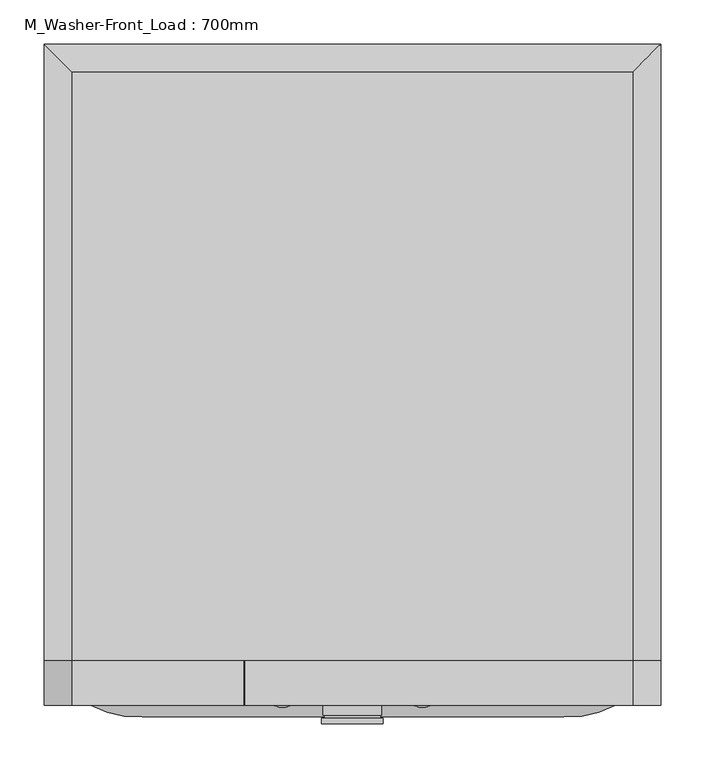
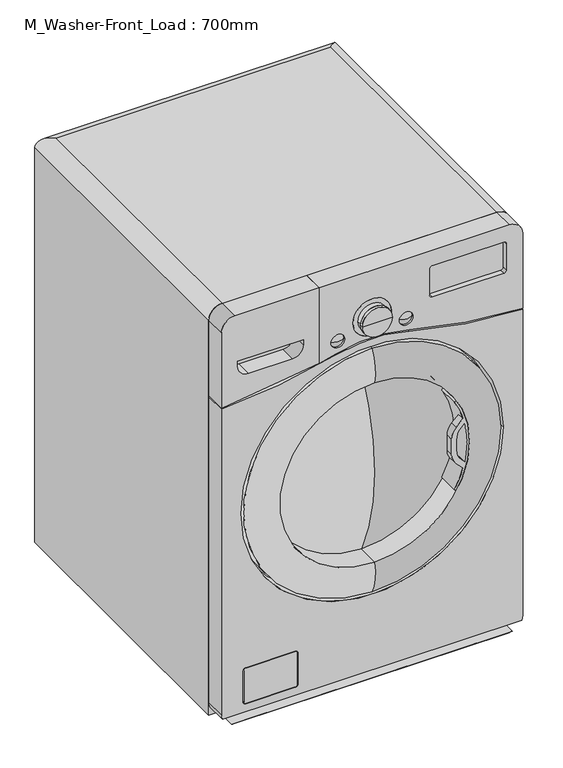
"""IFC4 building model written with IfcOpenShell, lengths in millimetres: proxy geometry, M_Washer-Front_Load : 700mm."""

from ifc_helpers import new_model, si_unit, point, frame, frame_2d, origin, place, context, project, spatial, polyline, circle_curve, ellipse_curve, trimmed, segment, composite_curve, outline, extrude, source, transform, mapped, element, save
from ifc_brep_helpers import plane_surface, cylinder_surface, revolved_surface, advanced_brep


def m_washer_front_load_700mm_9d4a3417(model_context):
    return source(origin(), model_context, "Body", "SolidModel", [
        advanced_brep(
        [(-318.25, -799.2, 1000.0), (318.25, -799.2, 1000.0), (318.25, -131.75, 1000.0), (-318.25, -131.75, 1000.0), (350.0, -100.0, 0.0), (350.0, -799.2, 0.0), (-350.0, -799.2, 0.0), (-350.0, -100.0, 0.0), (-350.0, -100.0, 968.25), (350.0, -100.0, 968.25), (-350.0, -799.2, 968.25), (350.0, -799.2, 968.25)],
        [
            (0, 1),
            (1, 2),
            (2, 3),
            (3, 0),
            (4, 5),
            (5, 6),
            (6, 7),
            (7, 4),
            (7, 8),
            (8, 9),
            (9, 4),
            (6, 10),
            (10, 8),
            (5, 11),
            (11, 1, circle_curve(frame((318.25, -799.2, 968.25), z_axis=(0.0, -1.0, 0.0), x_axis=(-1.0, 0.0, 0.0)), 31.75)),
            (0, 10, circle_curve(frame((-318.25, -799.2, 968.25), z_axis=(0.0, -1.0, 0.0), x_axis=(1.0, 0.0, 0.0)), 31.75)),
            (9, 11),
            (9, 2, ellipse_curve(frame((318.25, -131.75, 968.25), z_axis=(0.7071067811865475, -0.7071067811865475, 0.0), x_axis=(0.7071067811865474, 0.7071067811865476, 0.0)), 44.9012806, 31.75)),
            (8, 3, ellipse_curve(frame((-318.25, -131.75, 968.25), z_axis=(0.7071067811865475, 0.7071067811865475, 0.0), x_axis=(-0.7071067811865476, 0.7071067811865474, 0.0)), 44.9012806, 31.75)),
        ],
        [
            plane_surface(frame((-350.0, -100.0, 1000.0), z_axis=(0.0, 0.0, 1.0), x_axis=(-1.0, 0.0, 0.0))),
            plane_surface(frame((-350.0, -100.0, 0.0), z_axis=(0.0, 0.0, -1.0), x_axis=(1.0, 0.0, 0.0))),
            plane_surface(frame((350.0, -100.0, 1000.0), z_axis=(0.0, 1.0, 0.0), x_axis=(0.0, 0.0, -1.0))),
            plane_surface(frame((-350.0, -100.0, 1000.0), z_axis=(-1.0, 0.0, 0.0), x_axis=(0.0, 0.0, -1.0))),
            plane_surface(frame((-350.0, -799.2, 1000.0), z_axis=(0.0, -1.0, 0.0), x_axis=(0.0, 0.0, -1.0))),
            plane_surface(frame((350.0, -799.2, 1000.0), z_axis=(1.0, 0.0, 0.0), x_axis=(0.0, 0.0, -1.0))),
            cylinder_surface(frame((318.25, -799.2, 968.25), z_axis=(0.0, 1.0, 0.0), x_axis=(-1.0, 0.0, 0.0)), 31.75),
            cylinder_surface(frame((350.0, -131.75, 968.25), z_axis=(-1.0, 0.0, 0.0), x_axis=(0.0, -1.0, 0.0)), 31.75),
            cylinder_surface(frame((-318.25, -100.0, 968.25), z_axis=(0.0, -1.0, 0.0), x_axis=(1.0, 0.0, 0.0)), 31.75),
        ],
        [
            (0, [[1, 2, 3, 4]]),
            (1, [[5, 6, 7, 8]]),
            (2, [[-8, 9, 10, 11]]),
            (3, [[-7, 12, 13, -9]]),
            (4, [[-6, 14, 15, -1, 16, -12]]),
            (5, [[-5, -11, 17, -14]]),
            (6, [[18, -2, -15, -17]]),
            (7, [[-18, -10, 19, -3]]),
            (8, [[-19, -13, -16, -4]]),
        ],
    ),
        advanced_brep(
        [(318.25, -799.2, 1000.0), (350.0, -799.2, 968.25), (350.0, -799.2, 784.6273423), (85.8604518, -799.2, 824.2309769), (-85.8604518, -799.2, 824.2309769), (-121.9640352, -799.2, 815.0000454), (-121.9640352, -799.2, 1000.0), (-63.5, -799.2, 853.95), (-95.25, -799.2, 853.95), (95.25, -799.2, 853.95), (63.5, -799.2, 853.95), (-44.45, -799.2, 885.7), (44.45, -799.2, 885.7), (-85.8604518, -850.0, 824.2309769), (85.8604518, -850.0, 824.2309769), (350.0, -850.0, 784.6273423), (350.0, -850.0, 968.25), (318.25, -850.0, 1000.0), (-121.9640352, -850.0, 1000.0), (-121.9640352, -850.0, 815.0000454), (-63.5, -850.0, 853.95), (-95.25, -850.0, 853.95), (95.25, -850.0, 853.95), (63.5, -850.0, 853.95), (305.55, -850.0, 885.7), (140.45, -850.0, 885.7), (134.1, -850.0, 892.05), (134.1, -850.0, 955.55), (140.45, -850.0, 961.9), (305.55, -850.0, 961.9), (311.9, -850.0, 955.55), (311.9, -850.0, 892.05), (44.45, -850.0, 885.7), (-44.45, -850.0, 885.7), (305.55, -837.3, 885.7), (311.9, -837.3, 892.05), (311.9, -837.3, 955.55), (305.55, -837.3, 961.9), (140.45, -837.3, 961.9), (134.1, -837.3, 955.55), (134.1, -837.3, 892.05), (140.45, -837.3, 885.7)],
        [
            (0, 1, circle_curve(frame((318.25, -799.2, 968.25), z_axis=(0.0, 1.0, 0.0), x_axis=(-1.0, 0.0, 0.0)), 31.75)),
            (1, 2),
            (2, 3, circle_curve(frame((385.100978, -799.2, 1919.3876052), z_axis=(0.0, 1.0, 0.0), x_axis=(-1.0, 0.0, 0.0)), 1135.3030137)),
            (3, 4, circle_curve(frame((0.0, -799.2, 510.0), z_axis=(0.0, -1.0, 0.0), x_axis=(-1.0, 0.0, 0.0)), 325.7500945)),
            (4, 5, circle_curve(frame((-385.100978, -799.2, 1919.3876052), z_axis=(0.0, 1.0, 0.0), x_axis=(-1.0, 0.0, 0.0)), 1135.3030137)),
            (5, 6),
            (6, 0),
            (7, 8, circle_curve(frame((-79.375, -799.2, 853.95), z_axis=(0.0, -1.0, 0.0), x_axis=(-1.0, 0.0, 0.0)), 15.875)),
            (8, 7, circle_curve(frame((-79.375, -799.2, 853.95), z_axis=(0.0, -1.0, 0.0), x_axis=(-1.0, 0.0, 0.0)), 15.875)),
            (9, 10, circle_curve(frame((79.375, -799.2, 853.95), z_axis=(0.0, -1.0, 0.0), x_axis=(-1.0, 0.0, 0.0)), 15.875)),
            (10, 9, circle_curve(frame((79.375, -799.2, 853.95), z_axis=(0.0, -1.0, 0.0), x_axis=(-1.0, 0.0, 0.0)), 15.875)),
            (11, 12, circle_curve(frame((0.0, -799.2, 885.7), z_axis=(0.0, -1.0, 0.0), x_axis=(-1.0, 0.0, 0.0)), 44.45)),
            (12, 11, circle_curve(frame((0.0, -799.2, 885.7), z_axis=(0.0, -1.0, 0.0), x_axis=(-1.0, 0.0, 0.0)), 44.45)),
            (13, 14, circle_curve(frame((0.0, -850.0, 510.0), z_axis=(0.0, 1.0, 0.0), x_axis=(-1.0, 0.0, 0.0)), 325.7500945)),
            (14, 15, circle_curve(frame((385.100978, -850.0, 1919.3876052), z_axis=(0.0, -1.0, 0.0), x_axis=(-1.0, 0.0, 0.0)), 1135.3030137)),
            (15, 16),
            (16, 17, circle_curve(frame((318.25, -850.0, 968.25), z_axis=(0.0, -1.0, 0.0), x_axis=(-1.0, 0.0, 0.0)), 31.75)),
            (17, 18),
            (18, 19),
            (19, 13, circle_curve(frame((-385.100978, -850.0, 1919.3876052), z_axis=(0.0, -1.0, 0.0), x_axis=(-1.0, 0.0, 0.0)), 1135.3030137)),
            (20, 21, circle_curve(frame((-79.375, -850.0, 853.95), z_axis=(0.0, 1.0, 0.0), x_axis=(-1.0, 0.0, 0.0)), 15.875)),
            (21, 20, circle_curve(frame((-79.375, -850.0, 853.95), z_axis=(0.0, 1.0, 0.0), x_axis=(-1.0, 0.0, 0.0)), 15.875)),
            (22, 23, circle_curve(frame((79.375, -850.0, 853.95), z_axis=(0.0, 1.0, 0.0), x_axis=(-1.0, 0.0, 0.0)), 15.875)),
            (23, 22, circle_curve(frame((79.375, -850.0, 853.95), z_axis=(0.0, 1.0, 0.0), x_axis=(-1.0, 0.0, 0.0)), 15.875)),
            (24, 25),
            (25, 26, circle_curve(frame((140.45, -850.0, 892.05), z_axis=(0.0, 1.0, 0.0), x_axis=(-1.0, 0.0, 0.0)), 6.35)),
            (26, 27),
            (27, 28, circle_curve(frame((140.45, -850.0, 955.55), z_axis=(0.0, 1.0, 0.0), x_axis=(-1.0, 0.0, 0.0)), 6.35)),
            (28, 29),
            (29, 30, circle_curve(frame((305.55, -850.0, 955.55), z_axis=(0.0, 1.0, 0.0), x_axis=(-1.0, 0.0, 0.0)), 6.35)),
            (30, 31),
            (31, 24, circle_curve(frame((305.55, -850.0, 892.05), z_axis=(0.0, 1.0, 0.0), x_axis=(-1.0, 0.0, 0.0)), 6.35)),
            (32, 33, circle_curve(frame((0.0, -850.0, 885.7), z_axis=(0.0, 1.0, 0.0), x_axis=(-1.0, 0.0, 0.0)), 44.45)),
            (33, 32, circle_curve(frame((0.0, -850.0, 885.7), z_axis=(0.0, 1.0, 0.0), x_axis=(-1.0, 0.0, 0.0)), 44.45)),
            (17, 0),
            (6, 18),
            (16, 1),
            (15, 2),
            (14, 3),
            (13, 4),
            (19, 5),
            (34, 35, circle_curve(frame((305.55, -837.3, 892.05), z_axis=(0.0, -1.0, 0.0), x_axis=(-1.0, 0.0, 0.0)), 6.35)),
            (35, 36),
            (36, 37, circle_curve(frame((305.55, -837.3, 955.55), z_axis=(0.0, -1.0, 0.0), x_axis=(-1.0, 0.0, 0.0)), 6.35)),
            (37, 38),
            (38, 39, circle_curve(frame((140.45, -837.3, 955.55), z_axis=(0.0, -1.0, 0.0), x_axis=(-1.0, 0.0, 0.0)), 6.35)),
            (39, 40),
            (40, 41, circle_curve(frame((140.45, -837.3, 892.05), z_axis=(0.0, -1.0, 0.0), x_axis=(-1.0, 0.0, 0.0)), 6.35)),
            (41, 34),
            (41, 25),
            (24, 34),
            (40, 26),
            (39, 27),
            (38, 28),
            (37, 29),
            (36, 30),
            (35, 31),
            (7, 20),
            (21, 8),
            (9, 22),
            (23, 10),
            (11, 33),
            (32, 12),
        ],
        [
            plane_surface(frame((286.5, -799.2, 968.25), z_axis=(0.0, 1.0, 0.0), x_axis=(0.0, 0.0, 1.0))),
            plane_surface(frame((286.5, -850.0, 968.25), z_axis=(0.0, -1.0, 0.0), x_axis=(0.0, 0.0, -1.0))),
            plane_surface(frame((-318.25, -799.2, 1000.0), z_axis=(0.0, 0.0, 1.0), x_axis=(0.0, -1.0, 0.0))),
            cylinder_surface(frame((318.25, -850.0, 968.25), z_axis=(0.0, 1.0, 0.0), x_axis=(-1.0, 0.0, 0.0)), 31.75),
            plane_surface(frame((350.0, -799.2, 968.25), z_axis=(1.0, 0.0, 0.0), x_axis=(0.0, -1.0, 0.0))),
            cylinder_surface(frame((385.100978, -850.0, 1919.3876052), z_axis=(0.0, 1.0, 0.0), x_axis=(-1.0, 0.0, 0.0)), 1135.3030137),
            revolved_surface(polyline([(-325.7500945, -850.0, 510.0), (-325.7500945, -799.2, 510.0)]), (0.0, -850.0, 510.0), (0.0, -1.0, 0.0)),
            cylinder_surface(frame((-385.100978, -850.0, 1919.3876052), z_axis=(0.0, 1.0, 0.0), x_axis=(-1.0, 0.0, 0.0)), 1135.3030137),
            plane_surface(frame((-121.9640352, -799.2, 1000.0), z_axis=(-1.0, 0.0, 0.0), x_axis=(0.0, -1.0, 0.0))),
            plane_surface(frame((140.45, -837.3, 885.7), z_axis=(0.0, -1.0, 0.0), x_axis=(-1.0, 0.0, 0.0))),
            plane_surface(frame((305.55, -837.3, 885.7), z_axis=(0.0, 0.0, 1.0), x_axis=(0.0, -1.0, 0.0))),
            revolved_surface(polyline([(134.1, -837.3, 892.05), (134.1, -850.0, 892.05)]), (140.45, -850.0, 892.05), (0.0, 1.0, 0.0)),
            plane_surface(frame((134.1, -837.3, 892.05), z_axis=(1.0, 0.0, 0.0), x_axis=(0.0, -1.0, 0.0))),
            revolved_surface(polyline([(134.1, -837.3, 955.55), (134.1, -850.0, 955.55)]), (140.45, -850.0, 955.55), (0.0, 1.0, 0.0)),
            plane_surface(frame((140.45, -837.3, 961.9), z_axis=(0.0, 0.0, -1.0), x_axis=(0.0, -1.0, 0.0))),
            revolved_surface(polyline([(299.2, -837.3, 955.55), (299.2, -850.0, 955.55)]), (305.55, -850.0, 955.55), (0.0, 1.0, 0.0)),
            plane_surface(frame((311.9, -837.3, 955.55), z_axis=(-1.0, 0.0, 0.0), x_axis=(0.0, -1.0, 0.0))),
            revolved_surface(polyline([(299.2, -837.3, 892.05), (299.2, -850.0, 892.05)]), (305.55, -850.0, 892.05), (0.0, 1.0, 0.0)),
            revolved_surface(polyline([(-95.25, -850.0, 853.95), (-95.25, -799.2, 853.95)]), (-79.375, -850.0, 853.95), (0.0, -1.0, 0.0)),
            revolved_surface(polyline([(63.5, -850.0, 853.95), (63.5, -799.2, 853.95)]), (79.375, -850.0, 853.95), (0.0, -1.0, 0.0)),
            revolved_surface(polyline([(-44.45, -799.2, 885.7), (-44.45, -850.0, 885.7)]), (0.0, -850.0, 885.7), (0.0, 1.0, 0.0)),
        ],
        [
            (0, [[1, 2, 3, 4, 5, 6, 7], [8, 9], [10, 11], [12, 13]]),
            (1, [[14, 15, 16, 17, 18, 19, 20], [21, 22], [23, 24], [25, 26, 27, 28, 29, 30, 31, 32], [33, 34]]),
            (2, [[35, -7, 36, -18]]),
            (3, [[-1, -35, -17, 37]]),
            (4, [[-2, -37, -16, 38]]),
            (5, [[-3, -38, -15, 39]]),
            (6, [[-4, -39, -14, 40]]),
            (7, [[-40, -20, 41, -5]]),
            (8, [[-6, -41, -19, -36]]),
            (9, [[42, 43, 44, 45, 46, 47, 48, 49]]),
            (10, [[-49, 50, -25, 51]]),
            (11, [[-48, 52, -26, -50]]),
            (12, [[-47, 53, -27, -52]]),
            (13, [[-46, 54, -28, -53]]),
            (14, [[-45, 55, -29, -54]]),
            (15, [[-44, 56, -30, -55]]),
            (16, [[-43, 57, -31, -56]]),
            (17, [[-42, -51, -32, -57]]),
            (18, [[-8, 58, -22, 59]]),
            (18, [[-9, -59, -21, -58]]),
            (19, [[-10, 60, -24, 61]]),
            (19, [[-11, -61, -23, -60]]),
            (20, [[62, -33, 63, -12]]),
            (20, [[-62, -13, -63, -34]]),
        ],
    ),
        advanced_brep(
        [(-350.0, -799.2, 784.6273423), (-350.0, -799.2, 968.25), (-318.25, -799.2, 1000.0), (-123.5515352, -799.2, 1000.0), (-123.5515352, -799.2, 814.623005), (-318.25, -850.0, 1000.0), (-350.0, -850.0, 968.25), (-350.0, -850.0, 784.6273423), (-123.5515352, -850.0, 814.623005), (-123.5515352, -850.0, 1000.0), (-159.5, -850.0, 885.7), (-159.5, -850.0, 873.0), (-184.9, -850.0, 847.6), (-286.5, -850.0, 847.6), (-311.9, -850.0, 873.0), (-311.9, -850.0, 885.7), (-159.5, -811.9, 885.7), (-311.9, -811.9, 885.7), (-311.9, -811.9, 873.0), (-286.5, -811.9, 847.6), (-184.9, -811.9, 847.6), (-159.5, -811.9, 873.0)],
        [
            (0, 1),
            (1, 2, circle_curve(frame((-318.25, -799.2, 968.25), z_axis=(0.0, 1.0, 0.0), x_axis=(-1.0, 0.0, 0.0)), 31.75)),
            (2, 3),
            (3, 4),
            (4, 0, circle_curve(frame((-385.100978, -799.2, 1919.3876052), z_axis=(0.0, 1.0, 0.0), x_axis=(-1.0, 0.0, 0.0)), 1135.3030137)),
            (5, 6, circle_curve(frame((-318.25, -850.0, 968.25), z_axis=(0.0, -1.0, 0.0), x_axis=(-1.0, 0.0, 0.0)), 31.75)),
            (6, 7),
            (7, 8, circle_curve(frame((-385.100978, -850.0, 1919.3876052), z_axis=(0.0, -1.0, 0.0), x_axis=(-1.0, 0.0, 0.0)), 1135.3030137)),
            (8, 9),
            (9, 5),
            (10, 11),
            (11, 12, circle_curve(frame((-184.9, -850.0, 873.0), z_axis=(0.0, 1.0, 0.0), x_axis=(-1.0, 0.0, 0.0)), 25.4)),
            (12, 13),
            (13, 14, circle_curve(frame((-286.5, -850.0, 873.0), z_axis=(0.0, 1.0, 0.0), x_axis=(-1.0, 0.0, 0.0)), 25.4)),
            (14, 15),
            (15, 10),
            (2, 5),
            (9, 3),
            (7, 0),
            (4, 8),
            (6, 1),
            (16, 17),
            (17, 18),
            (18, 19, circle_curve(frame((-286.5, -811.9, 873.0), z_axis=(0.0, -1.0, 0.0), x_axis=(-1.0, 0.0, 0.0)), 25.4)),
            (19, 20),
            (20, 21, circle_curve(frame((-184.9, -811.9, 873.0), z_axis=(0.0, -1.0, 0.0), x_axis=(-1.0, 0.0, 0.0)), 25.4)),
            (21, 16),
            (21, 11),
            (10, 16),
            (20, 12),
            (19, 13),
            (18, 14),
            (17, 15),
        ],
        [
            plane_surface(frame((286.5, -799.2, 968.25), z_axis=(0.0, 1.0, 0.0), x_axis=(0.0, 0.0, 1.0))),
            plane_surface(frame((286.5, -850.0, 968.25), z_axis=(0.0, -1.0, 0.0), x_axis=(0.0, 0.0, -1.0))),
            plane_surface(frame((-318.25, -799.2, 1000.0), z_axis=(0.0, 0.0, 1.0), x_axis=(0.0, -1.0, 0.0))),
            cylinder_surface(frame((-385.100978, -850.0, 1919.3876052), z_axis=(0.0, 1.0, 0.0), x_axis=(-1.0, 0.0, 0.0)), 1135.3030137),
            plane_surface(frame((-350.0, -799.2, 784.6273423), z_axis=(-1.0, 0.0, 0.0), x_axis=(0.0, -1.0, 0.0))),
            cylinder_surface(frame((-318.25, -850.0, 968.25), z_axis=(0.0, 1.0, 0.0), x_axis=(-1.0, 0.0, 0.0)), 31.75),
            plane_surface(frame((-159.5, -811.9, 885.7), z_axis=(0.0, -1.0, 0.0), x_axis=(0.0, 0.0, -1.0))),
            plane_surface(frame((-159.5, -811.9, 885.7), z_axis=(-1.0, 0.0, 0.0), x_axis=(0.0, -1.0, 0.0))),
            revolved_surface(polyline([(-210.3, -811.9, 873.0), (-210.3, -850.0, 873.0)]), (-184.9, -850.0, 873.0), (0.0, 1.0, 0.0)),
            plane_surface(frame((-184.9, -811.9, 847.6), z_axis=(0.0, 0.0, 1.0), x_axis=(0.0, -1.0, 0.0))),
            revolved_surface(polyline([(-311.9, -811.9, 873.0), (-311.9, -850.0, 873.0)]), (-286.5, -850.0, 873.0), (0.0, 1.0, 0.0)),
            plane_surface(frame((-311.9, -811.9, 873.0), z_axis=(1.0, 0.0, 0.0), x_axis=(0.0, -1.0, 0.0))),
            plane_surface(frame((-311.9, -811.9, 885.7), z_axis=(0.0, 0.0, -1.0), x_axis=(0.0, -1.0, 0.0))),
            plane_surface(frame((-123.5515352, -799.2, 814.2519438), z_axis=(1.0, 0.0, 0.0), x_axis=(0.0, -1.0, 0.0))),
        ],
        [
            (0, [[1, 2, 3, 4, 5]]),
            (1, [[6, 7, 8, 9, 10], [11, 12, 13, 14, 15, 16]]),
            (2, [[17, -10, 18, -3]]),
            (3, [[19, -5, 20, -8]]),
            (4, [[-1, -19, -7, 21]]),
            (5, [[-2, -21, -6, -17]]),
            (6, [[22, 23, 24, 25, 26, 27]]),
            (7, [[-27, 28, -11, 29]]),
            (8, [[-26, 30, -12, -28]]),
            (9, [[-25, 31, -13, -30]]),
            (10, [[-24, 32, -14, -31]]),
            (11, [[-23, 33, -15, -32]]),
            (12, [[-22, -29, -16, -33]]),
            (13, [[-4, -18, -9, -20]]),
        ],
    ),
        advanced_brep(
        [(-350.0, -799.2, 781.4508315), (-85.0235936, -799.2, 821.1682541), (85.0235936, -799.2, 821.1682541), (350.0, -799.2, 781.4508315), (350.0, -799.2, 31.75), (347.7457624, -799.2, 20.0), (-347.7457624, -799.2, 20.0), (-350.0, -799.2, 31.75), (304.8, -799.2, 510.0), (-304.8, -799.2, 510.0), (-350.0, -850.0, 781.4508315), (-350.0, -850.0, 31.75), (-347.7457624, -850.0, 20.0), (347.7457624, -850.0, 20.0), (350.0, -850.0, 31.75), (350.0, -850.0, 781.4508315), (85.0235936, -850.0, 821.1682541), (-85.0235936, -850.0, 821.1682541), (304.8, -850.0, 510.0), (-304.8, -850.0, 510.0), (-172.2, -850.0, 121.6), (-172.2, -850.0, 45.4), (-178.55, -850.0, 39.05), (-292.85, -850.0, 39.05), (-299.2, -850.0, 45.4), (-299.2, -850.0, 121.6), (-292.85, -850.0, 127.95), (-178.55, -850.0, 127.95), (-173.7875, -850.0, 45.4), (-173.7875, -850.0, 121.6), (-178.55, -850.0, 126.3625), (-292.85, -850.0, 126.3625), (-297.6125, -850.0, 121.6), (-297.6125, -850.0, 45.4), (-292.85, -850.0, 40.6375), (-178.55, -850.0, 40.6375), (-173.7875, -836.50625, 45.4), (-173.7875, -836.50625, 121.6), (-172.2, -836.50625, 121.6), (-172.2, -836.50625, 45.4), (-292.85, -836.50625, 40.6375), (-178.55, -836.50625, 40.6375), (-178.55, -836.50625, 39.05), (-292.85, -836.50625, 39.05), (-297.6125, -836.50625, 121.6), (-297.6125, -836.50625, 45.4), (-299.2, -836.50625, 45.4), (-299.2, -836.50625, 121.6), (-178.55, -836.50625, 126.3625), (-292.85, -836.50625, 126.3625), (-292.85, -836.50625, 127.95), (-178.55, -836.50625, 127.95)],
        [
            (0, 1, circle_curve(frame((-385.100978, -799.2, 1919.3876052), z_axis=(0.0, -1.0, 0.0), x_axis=(-1.0, 0.0, 0.0)), 1138.4780102)),
            (1, 2, circle_curve(frame((0.0, -799.2, 510.0), z_axis=(0.0, 1.0, 0.0), x_axis=(-1.0, 0.0, 0.0)), 322.575098)),
            (2, 3, circle_curve(frame((385.100978, -799.2, 1919.3876052), z_axis=(0.0, -1.0, 0.0), x_axis=(-1.0, 0.0, 0.0)), 1138.4780102)),
            (3, 4),
            (4, 5, circle_curve(frame((318.25, -799.2, 31.75), z_axis=(0.0, 1.0, 0.0), x_axis=(-1.0, 0.0, 0.0)), 31.75)),
            (5, 6),
            (6, 7, circle_curve(frame((-318.25, -799.2, 31.75), z_axis=(0.0, 1.0, 0.0), x_axis=(-1.0, 0.0, 0.0)), 31.75)),
            (7, 0),
            (8, 9, circle_curve(frame((0.0, -799.2, 510.0), z_axis=(0.0, -1.0, 0.0), x_axis=(-1.0, 0.0, 0.0)), 304.8)),
            (9, 8, circle_curve(frame((0.0, -799.2, 510.0), z_axis=(0.0, -1.0, 0.0), x_axis=(-1.0, 0.0, 0.0)), 304.8)),
            (10, 11),
            (11, 12, circle_curve(frame((-318.25, -850.0, 31.75), z_axis=(0.0, -1.0, 0.0), x_axis=(-1.0, 0.0, 0.0)), 31.75)),
            (12, 13),
            (13, 14, circle_curve(frame((318.25, -850.0, 31.75), z_axis=(0.0, -1.0, 0.0), x_axis=(-1.0, 0.0, 0.0)), 31.75)),
            (14, 15),
            (15, 16, circle_curve(frame((385.100978, -850.0, 1919.3876052), z_axis=(0.0, 1.0, 0.0), x_axis=(-1.0, 0.0, 0.0)), 1138.4780102)),
            (16, 17, circle_curve(frame((0.0, -850.0, 510.0), z_axis=(0.0, -1.0, 0.0), x_axis=(-1.0, 0.0, 0.0)), 322.575098)),
            (17, 10, circle_curve(frame((-385.100978, -850.0, 1919.3876052), z_axis=(0.0, 1.0, 0.0), x_axis=(-1.0, 0.0, 0.0)), 1138.4780102)),
            (18, 19, circle_curve(frame((0.0, -850.0, 510.0), z_axis=(0.0, 1.0, 0.0), x_axis=(-1.0, 0.0, 0.0)), 304.8)),
            (19, 18, circle_curve(frame((0.0, -850.0, 510.0), z_axis=(0.0, 1.0, 0.0), x_axis=(-1.0, 0.0, 0.0)), 304.8)),
            (20, 21),
            (21, 22, circle_curve(frame((-178.55, -850.0, 45.4), z_axis=(0.0, 1.0, 0.0), x_axis=(1.0, 0.0, 0.0)), 6.35)),
            (22, 23),
            (23, 24, circle_curve(frame((-292.85, -850.0, 45.4), z_axis=(0.0, 1.0, 0.0), x_axis=(0.0, 0.0, -1.0)), 6.35)),
            (24, 25),
            (25, 26, circle_curve(frame((-292.85, -850.0, 121.6), z_axis=(0.0, 1.0, 0.0), x_axis=(-1.0, 0.0, 0.0)), 6.35)),
            (26, 27),
            (27, 20, circle_curve(frame((-178.55, -850.0, 121.6), z_axis=(0.0, 1.0, 0.0), x_axis=(0.0, 0.0, 1.0)), 6.35)),
            (28, 29),
            (29, 30, circle_curve(frame((-178.55, -850.0, 121.6), z_axis=(0.0, -1.0, 0.0), x_axis=(0.0, 0.0, 1.0)), 4.7625)),
            (30, 31),
            (31, 32, circle_curve(frame((-292.85, -850.0, 121.6), z_axis=(0.0, -1.0, 0.0), x_axis=(-1.0, 0.0, 0.0)), 4.7625)),
            (32, 33),
            (33, 34, circle_curve(frame((-292.85, -850.0, 45.4), z_axis=(0.0, -1.0, 0.0), x_axis=(0.0, 0.0, -1.0)), 4.7625)),
            (34, 35),
            (35, 28, circle_curve(frame((-178.55, -850.0, 45.4), z_axis=(0.0, -1.0, 0.0), x_axis=(1.0, 0.0, 0.0)), 4.7625)),
            (3, 15),
            (14, 4),
            (7, 11),
            (10, 0),
            (17, 1),
            (16, 2),
            (13, 5),
            (6, 12),
            (8, 18),
            (19, 9),
            (28, 36),
            (36, 37),
            (37, 29),
            (38, 39),
            (39, 21),
            (20, 38),
            (34, 40),
            (40, 41),
            (41, 35),
            (42, 43),
            (43, 23),
            (22, 42),
            (32, 44),
            (44, 45),
            (45, 33),
            (46, 47),
            (47, 25),
            (24, 46),
            (30, 48),
            (48, 49),
            (49, 31),
            (50, 51),
            (51, 27),
            (26, 50),
            (37, 48, circle_curve(frame((-178.55, -836.50625, 121.6), z_axis=(0.0, -1.0, 0.0), x_axis=(0.0, 0.0, 1.0)), 4.7625)),
            (51, 38, circle_curve(frame((-178.55, -836.50625, 121.6), z_axis=(0.0, 1.0, 0.0), x_axis=(0.0, 0.0, 1.0)), 6.35)),
            (41, 36, circle_curve(frame((-178.55, -836.50625, 45.4), z_axis=(0.0, -1.0, 0.0), x_axis=(1.0, 0.0, 0.0)), 4.7625)),
            (39, 42, circle_curve(frame((-178.55, -836.50625, 45.4), z_axis=(0.0, 1.0, 0.0), x_axis=(1.0, 0.0, 0.0)), 6.35)),
            (45, 40, circle_curve(frame((-292.85, -836.50625, 45.4), z_axis=(0.0, -1.0, 0.0), x_axis=(0.0, 0.0, -1.0)), 4.7625)),
            (43, 46, circle_curve(frame((-292.85, -836.50625, 45.4), z_axis=(0.0, 1.0, 0.0), x_axis=(0.0, 0.0, -1.0)), 6.35)),
            (50, 47, circle_curve(frame((-292.85, -836.50625, 121.6), z_axis=(0.0, -1.0, 0.0), x_axis=(-1.0, 0.0, 0.0)), 6.35)),
            (44, 49, circle_curve(frame((-292.85, -836.50625, 121.6), z_axis=(0.0, 1.0, 0.0), x_axis=(-1.0, 0.0, 0.0)), 4.7625)),
        ],
        [
            plane_surface(frame((286.5, -799.2, 968.25), z_axis=(0.0, 1.0, 0.0), x_axis=(0.0, 0.0, 1.0))),
            plane_surface(frame((286.5, -850.0, 968.25), z_axis=(0.0, -1.0, 0.0), x_axis=(0.0, 0.0, -1.0))),
            plane_surface(frame((350.0, -799.2, 781.4508315), z_axis=(1.0, 0.0, 0.0), x_axis=(0.0, -1.0, 0.0))),
            plane_surface(frame((-350.0, -799.2, 31.75), z_axis=(-1.0, 0.0, 0.0), x_axis=(0.0, -1.0, 0.0))),
            revolved_surface(polyline([(-1523.5789882, -850.0, 1919.3876052), (-1523.5789882, -799.2, 1919.3876052)]), (-385.100978, -850.0, 1919.3876052), (0.0, -1.0, 0.0)),
            cylinder_surface(frame((0.0, -850.0, 510.0), z_axis=(0.0, 1.0, 0.0), x_axis=(-1.0, 0.0, 0.0)), 322.575098),
            revolved_surface(polyline([(-753.3770322, -850.0, 1919.3876052), (-753.3770322, -799.2, 1919.3876052)]), (385.100978, -850.0, 1919.3876052), (0.0, -1.0, 0.0)),
            cylinder_surface(frame((318.25, -850.0, 31.75), z_axis=(0.0, 1.0, 0.0), x_axis=(-1.0, 0.0, 0.0)), 31.75),
            cylinder_surface(frame((-318.25, -850.0, 31.75), z_axis=(0.0, 1.0, 0.0), x_axis=(-1.0, 0.0, 0.0)), 31.75),
            revolved_surface(polyline([(-304.8, -850.0, 510.0), (-304.8, -799.2, 510.0)]), (0.0, -850.0, 510.0), (0.0, -1.0, 0.0)),
            plane_surface(frame((-173.7875, -836.50625, 121.6), z_axis=(1.0, 0.0, 0.0), x_axis=(0.0, 0.0, -1.0))),
            plane_surface(frame((-172.2, -850.0, 121.6), z_axis=(-1.0, 0.0, 0.0), x_axis=(0.0, 0.0, -1.0))),
            plane_surface(frame((-178.55, -836.50625, 40.6375), z_axis=(0.0, 0.0, -1.0), x_axis=(-1.0, 0.0, 0.0))),
            plane_surface(frame((-178.55, -850.0, 39.05), z_axis=(0.0, 0.0, 1.0), x_axis=(-1.0, 0.0, 0.0))),
            plane_surface(frame((-297.6125, -836.50625, 45.4), z_axis=(-1.0, 0.0, 0.0), x_axis=(0.0, 0.0, 1.0))),
            plane_surface(frame((-299.2, -850.0, 45.4), z_axis=(1.0, 0.0, 0.0), x_axis=(0.0, 0.0, 1.0))),
            plane_surface(frame((-292.85, -836.50625, 126.3625), z_axis=(0.0, 0.0, 1.0), x_axis=(1.0, 0.0, 0.0))),
            plane_surface(frame((-292.85, -850.0, 127.95), z_axis=(0.0, 0.0, -1.0), x_axis=(1.0, 0.0, 0.0))),
            cylinder_surface(frame((-178.55, -850.0, 121.6), z_axis=(0.0, 1.0, 0.0), x_axis=(0.0, 0.0, 1.0)), 4.7625),
            revolved_surface(polyline([(-178.55, -836.50625, 127.94999999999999), (-178.55, -850.0, 127.94999999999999)]), (-178.55, -850.0, 121.6), (0.0, 1.0, 0.0)),
            cylinder_surface(frame((-178.55, -850.0, 45.4), z_axis=(0.0, 1.0, 0.0), x_axis=(1.0, 0.0, 0.0)), 4.7625),
            revolved_surface(polyline([(-172.20000000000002, -836.50625, 45.4), (-172.20000000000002, -850.0, 45.4)]), (-178.55, -850.0, 45.4), (0.0, 1.0, 0.0)),
            cylinder_surface(frame((-292.85, -850.0, 45.4), z_axis=(0.0, 1.0, 0.0), x_axis=(0.0, 0.0, -1.0)), 4.7625),
            revolved_surface(polyline([(-292.85, -836.50625, 39.05), (-292.85, -850.0, 39.05)]), (-292.85, -850.0, 45.4), (0.0, 1.0, 0.0)),
            plane_surface(frame((-292.85, -836.50625, 121.6), z_axis=(0.0, -1.0, 0.0), x_axis=(-1.0, 0.0, 0.0))),
            cylinder_surface(frame((-292.85, -850.0, 121.6), z_axis=(0.0, 1.0, 0.0), x_axis=(-1.0, 0.0, 0.0)), 4.7625),
            revolved_surface(polyline([(-299.20000000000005, -836.50625, 121.6), (-299.20000000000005, -850.0, 121.6)]), (-292.85, -850.0, 121.6), (0.0, 1.0, 0.0)),
            plane_surface(frame((350.0, -799.2, 20.0), z_axis=(0.0, 0.0, -1.0), x_axis=(-1.0, 0.0, 0.0))),
        ],
        [
            (0, [[1, 2, 3, 4, 5, 6, 7, 8], [9, 10]]),
            (1, [[11, 12, 13, 14, 15, 16, 17, 18], [19, 20], [21, 22, 23, 24, 25, 26, 27, 28]]),
            (1, [[29, 30, 31, 32, 33, 34, 35, 36]]),
            (2, [[-4, 37, -15, 38]]),
            (3, [[-8, 39, -11, 40]]),
            (4, [[-1, -40, -18, 41]]),
            (5, [[-2, -41, -17, 42]]),
            (6, [[-3, -42, -16, -37]]),
            (7, [[-38, -14, 43, -5]]),
            (8, [[-39, -7, 44, -12]]),
            (9, [[-9, 45, -20, 46]]),
            (9, [[-10, -46, -19, -45]]),
            (10, [[47, 48, 49, -29]]),
            (11, [[50, 51, -21, 52]]),
            (12, [[53, 54, 55, -35]]),
            (13, [[56, 57, -23, 58]]),
            (14, [[59, 60, 61, -33]]),
            (15, [[62, 63, -25, 64]]),
            (16, [[65, 66, 67, -31]]),
            (17, [[68, 69, -27, 70]]),
            (18, [[-49, 71, -65, -30]]),
            (19, [[-52, -28, -69, 72]]),
            (20, [[-47, -36, -55, 73]]),
            (21, [[-51, 74, -58, -22]]),
            (22, [[-53, -34, -61, 75]]),
            (23, [[-57, 76, -64, -24]]),
            (24, [[-50, -72, -68, 77, -62, -76, -56, -74], [-48, -73, -54, -75, -60, 78, -66, -71]]),
            (25, [[-59, -32, -67, -78]]),
            (26, [[-63, -77, -70, -26]]),
            (27, [[-6, -43, -13, -44]]),
        ],
    ),
        advanced_brep(
        [(318.25, -799.2, 0.0), (-318.25, -799.2, 0.0), (-325.9585991, -799.2, 0.95), (325.9585991, -799.2, 0.95), (-318.25, -850.0, 0.0), (318.25, -850.0, 0.0), (325.9585991, -850.0, 0.95), (-325.9585991, -850.0, 0.95)],
        [
            (0, 1),
            (1, 2, circle_curve(frame((-318.25, -799.2, 31.75), z_axis=(0.0, 1.0, 0.0), x_axis=(-1.0, 0.0, 0.0)), 31.75)),
            (2, 3),
            (3, 0, circle_curve(frame((318.25, -799.2, 31.75), z_axis=(0.0, 1.0, 0.0), x_axis=(-1.0, 0.0, 0.0)), 31.75)),
            (4, 5),
            (5, 6, circle_curve(frame((318.25, -850.0, 31.75), z_axis=(0.0, -1.0, 0.0), x_axis=(-1.0, 0.0, 0.0)), 31.75)),
            (6, 7),
            (7, 4, circle_curve(frame((-318.25, -850.0, 31.75), z_axis=(0.0, -1.0, 0.0), x_axis=(-1.0, 0.0, 0.0)), 31.75)),
            (0, 5),
            (4, 1),
            (3, 6),
            (7, 2),
        ],
        [
            plane_surface(frame((286.5, -799.2, 968.25), z_axis=(0.0, 1.0, 0.0), x_axis=(0.0, 0.0, 1.0))),
            plane_surface(frame((286.5, -850.0, 968.25), z_axis=(0.0, -1.0, 0.0), x_axis=(0.0, 0.0, -1.0))),
            plane_surface(frame((318.25, -799.2, 0.0), z_axis=(0.0, 0.0, -1.0), x_axis=(0.0, -1.0, 0.0))),
            cylinder_surface(frame((318.25, -850.0, 31.75), z_axis=(0.0, 1.0, 0.0), x_axis=(-1.0, 0.0, 0.0)), 31.75),
            cylinder_surface(frame((-318.25, -850.0, 31.75), z_axis=(0.0, 1.0, 0.0), x_axis=(-1.0, 0.0, 0.0)), 31.75),
            plane_surface(frame((350.0, -850.0, 0.95), z_axis=(0.0, 0.0, 1.0), x_axis=(-1.0, 0.0, 0.0))),
        ],
        [
            (0, [[1, 2, 3, 4]]),
            (1, [[5, 6, 7, 8]]),
            (2, [[-1, 9, -5, 10]]),
            (3, [[-9, -4, 11, -6]]),
            (4, [[-10, -8, 12, -2]]),
            (5, [[-3, -12, -7, -11]]),
        ],
    ),
        advanced_brep(
        [(0.0, -799.2, 291.091246), (0.0, -799.2, 728.908754), (0.0, -799.2, 510.0), (0.0, -806.5406335, 291.091246), (0.0, -806.5406335, 728.908754), (0.0, -860.1804538, 510.0)],
        [
            (0, 1, circle_curve(frame((0.0, -799.2, 510.0), z_axis=(0.0, 1.0, 0.0), x_axis=(0.0, 0.0, 1.0)), 218.908754)),
            (1, 2),
            (2, 0),
            (1, 0, circle_curve(frame((0.0, -799.2, 510.0), z_axis=(0.0, 1.0, 0.0), x_axis=(0.0, 0.0, 1.0)), 218.908754)),
            (3, 4, circle_curve(frame((0.0, -806.5406335, 510.0), z_axis=(0.0, 1.0, 0.0), x_axis=(0.0, 0.0, 1.0)), 218.908754)),
            (4, 1),
            (0, 3),
            (4, 3, circle_curve(frame((0.0, -806.5406335, 510.0), z_axis=(0.0, 1.0, 0.0), x_axis=(0.0, 0.0, 1.0)), 218.908754)),
            (5, 4, circle_curve(frame((0.0, -386.6677479, 510.0), z_axis=(-1.0, 0.0, 0.0), x_axis=(0.0, 1.0, 0.0)), 473.5127059)),
            (3, 5, circle_curve(frame((0.0, -386.6677479, 510.0), z_axis=(-1.0, 0.0, 0.0), x_axis=(0.0, 1.0, 0.0)), 473.5127059)),
        ],
        [
            plane_surface(frame((0.0, -799.2, 510.0), z_axis=(0.0, 1.0, 0.0), x_axis=(0.0, 0.0, 1.0))),
            cylinder_surface(frame((0.0, 2097.4086068, 510.0), z_axis=(0.0, -1.0, 0.0), x_axis=(0.0, 0.0, 1.0)), 218.908754),
            revolved_surface(trimmed(ellipse_curve(frame((0.0, -386.6677479, 510.0), z_axis=(1.0, 0.0, 0.0), x_axis=(0.0, 1.0, 0.0)), 473.5127059, 473.5127059), [point((0.0, -806.5406335, 728.908754))], [point((0.0, -860.1804538, 510.0))], True, "CARTESIAN"), (0.0, 2097.4086068, 510.0), (0.0, -1.0, 0.0)),
        ],
        [
            (0, [[1, 2, 3]]),
            (0, [[4, -3, -2]]),
            (1, [[5, 6, -1, 7]]),
            (1, [[8, -7, -4, -6]]),
            (2, [[9, -5, 10]]),
            (2, [[-10, -8, -9]]),
        ],
    ),
        advanced_brep(
        [(0.0, -860.1804538, 289.7111611), (0.0, -860.1804538, 730.2888389), (0.0, -850.0, 808.45), (0.0, -850.0, 211.55), (0.0, -799.2, 289.7111611), (0.0, -799.2, 730.2888389), (0.0, -799.2, 211.55), (0.0, -799.2, 808.45)],
        [
            (0, 1, circle_curve(frame((0.0, -860.1804538, 510.0), z_axis=(0.0, 1.0, 0.0), x_axis=(0.0, 0.0, 1.0)), 220.2888389)),
            (1, 2, circle_curve(frame((0.0, -753.6052479, 756.1510496), z_axis=(-1.0, 0.0, 0.0), x_axis=(0.0, 1.0, 0.0)), 109.6682655)),
            (2, 3, circle_curve(frame((0.0, -850.0, 510.0), z_axis=(0.0, -1.0, 0.0), x_axis=(0.0, 0.0, 1.0)), 298.45)),
            (3, 0, circle_curve(frame((0.0, -753.6052479, 263.8489504), z_axis=(-1.0, 0.0, 0.0), x_axis=(0.0, 1.0, 0.0)), 109.6682655)),
            (1, 0, circle_curve(frame((0.0, -860.1804538, 510.0), z_axis=(0.0, 1.0, 0.0), x_axis=(0.0, 0.0, 1.0)), 220.2888389)),
            (3, 2, circle_curve(frame((0.0, -850.0, 510.0), z_axis=(0.0, -1.0, 0.0), x_axis=(0.0, 0.0, 1.0)), 298.45)),
            (4, 5, circle_curve(frame((0.0, -799.2, 510.0), z_axis=(0.0, 1.0, 0.0), x_axis=(0.0, 0.0, 1.0)), 220.2888389)),
            (5, 1),
            (0, 4),
            (5, 4, circle_curve(frame((0.0, -799.2, 510.0), z_axis=(0.0, 1.0, 0.0), x_axis=(0.0, 0.0, 1.0)), 220.2888389)),
            (6, 7, circle_curve(frame((0.0, -799.2, 510.0), z_axis=(0.0, 1.0, 0.0), x_axis=(0.0, 0.0, 1.0)), 298.45)),
            (7, 5),
            (4, 6),
            (7, 6, circle_curve(frame((0.0, -799.2, 510.0), z_axis=(0.0, 1.0, 0.0), x_axis=(0.0, 0.0, 1.0)), 298.45)),
            (2, 7),
            (6, 3),
        ],
        [
            revolved_surface(trimmed(ellipse_curve(frame((0.0, -753.6052479, 756.1510496), z_axis=(1.0, 0.0, 0.0), x_axis=(0.0, 1.0, 0.0)), 109.6682655, 109.6682655), [point((0.0, -850.0, 808.45))], [point((0.0, -860.1804538, 730.2888389))], True, "CARTESIAN"), (0.0, 2097.4086068, 510.0), (0.0, -1.0, 0.0)),
            revolved_surface(polyline([(0.0, -860.1804538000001, 730.2888389), (0.0, -799.2000000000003, 730.2888389)]), (0.0, 2097.4086068, 510.0), (0.0, -1.0, 0.0)),
            plane_surface(frame((0.0, -799.2, 510.0), z_axis=(0.0, 1.0, 0.0), x_axis=(0.0, 0.0, 1.0))),
            cylinder_surface(frame((0.0, 2097.4086068, 510.0), z_axis=(0.0, -1.0, 0.0), x_axis=(0.0, 0.0, 1.0)), 298.45),
        ],
        [
            (0, [[1, 2, 3, 4]]),
            (0, [[5, -4, 6, -2]]),
            (1, [[7, 8, -1, 9]]),
            (1, [[10, -9, -5, -8]]),
            (2, [[11, 12, -7, 13]]),
            (2, [[14, -13, -10, -12]]),
            (3, [[-3, 15, -11, 16]]),
            (3, [[-6, -16, -14, -15]]),
        ],
    ),
        extrude(outline(composite_curve([segment(trimmed(circle_curve(frame_2d((885.7, 0.0)), 44.45), [point((885.7, 44.45))], [point((885.7, -44.45))], False, "CARTESIAN"), True, "CONTINUOUS"), segment(trimmed(circle_curve(frame_2d((885.7, 0.0)), 44.45), [point((885.7, -44.45))], [point((885.7, 44.45))], False, "CARTESIAN"), True, "CONTINUOUS")], self_intersect=False)), frame((0.0, -850.0, 0.0), z_axis=(0.0, 1.0, 0.0), x_axis=(0.0, 0.0, 1.0)), (0.0, 0.0, 1.0), 50.8),
        advanced_brep(
        [(190.7757307, -806.5406335, 399.8555805), (185.4714685, -806.5406335, 402.9179977), (185.4714685, -806.5406335, 617.0820023), (190.7757307, -806.5406335, 620.1444195), (190.7757307, -860.1804538, 399.8555805), (190.7757307, -860.1804538, 620.1444195), (185.4714685, -860.1804538, 617.0820023), (205.2548958, -860.1804538, 571.1281323), (189.4682701, -860.1804538, 555.3415066), (178.3090385, -860.1804538, 528.4007382), (178.3090385, -860.1804538, 492.4912247), (189.4682701, -860.1804538, 465.5504563), (205.4586116, -860.1804538, 449.5601148), (185.4714685, -860.1804538, 402.9179977), (208.9695507, -860.1804538, 556.8822749), (209.1319021, -860.1804538, 463.8473365), (202.1682701, -860.1804538, 470.8109686), (191.0090385, -860.1804538, 497.7517369), (191.0090385, -860.1804538, 523.140226), (202.1682701, -860.1804538, 550.0809943), (205.4586116, -843.4116291, 449.5601148), (209.1319021, -843.4116291, 463.8473365), (208.9695507, -843.4116291, 556.8822749), (205.2548958, -843.4116291, 571.1281323), (202.1682701, -843.4116291, 550.0809943), (191.0090385, -843.4116291, 523.140226), (191.0090385, -843.4116291, 497.7517369), (202.1682701, -843.4116291, 470.8109686), (189.4682701, -843.4116291, 465.5504563), (178.3090385, -843.4116291, 492.4912247), (178.3090385, -843.4116291, 528.4007382), (189.4682701, -843.4116291, 555.3415066)],
        [
            (0, 1),
            (1, 2, circle_curve(frame((0.0, -806.5406335, 510.0), z_axis=(0.0, -1.0, 0.0), x_axis=(-1.0, 0.0, 0.0)), 214.1640045)),
            (2, 3),
            (3, 0, circle_curve(frame((0.0, -806.5406335, 510.0), z_axis=(0.0, 1.0, 0.0), x_axis=(-1.0, 0.0, 0.0)), 220.2888389)),
            (4, 5, circle_curve(frame((0.0, -860.1804538, 510.0), z_axis=(0.0, -1.0, 0.0), x_axis=(-1.0, 0.0, 0.0)), 220.2888389)),
            (5, 6),
            (6, 7, circle_curve(frame((0.0, -860.1804538, 510.0), z_axis=(0.0, 1.0, 0.0), x_axis=(-1.0, 0.0, 0.0)), 214.1640045)),
            (7, 8),
            (8, 9, circle_curve(frame((216.4090385, -860.1804538, 528.4007382), z_axis=(0.0, -1.0, 0.0), x_axis=(-1.0, 0.0, 0.0)), 38.1)),
            (9, 10),
            (10, 11, circle_curve(frame((216.4090385, -860.1804538, 492.4912247), z_axis=(0.0, -1.0, 0.0), x_axis=(-1.0, 0.0, 0.0)), 38.1)),
            (11, 12),
            (12, 13, circle_curve(frame((0.0, -860.1804538, 510.0), z_axis=(0.0, 1.0, 0.0), x_axis=(-1.0, 0.0, 0.0)), 214.1640045)),
            (13, 4),
            (14, 15, circle_curve(frame((0.0, -860.1804538, 510.0), z_axis=(0.0, 1.0, 0.0), x_axis=(-1.0, 0.0, 0.0)), 214.1640045)),
            (15, 16),
            (16, 17, circle_curve(frame((229.1090385, -860.1804538, 497.7517369), z_axis=(0.0, 1.0, 0.0), x_axis=(-1.0, 0.0, 0.0)), 38.1)),
            (17, 18),
            (18, 19, circle_curve(frame((229.1090385, -860.1804538, 523.140226), z_axis=(0.0, 1.0, 0.0), x_axis=(-1.0, 0.0, 0.0)), 38.1)),
            (19, 14),
            (1, 13),
            (12, 20),
            (20, 21, circle_curve(frame((0.0, -843.4116291, 510.0), z_axis=(0.0, -1.0, 0.0), x_axis=(-1.0, 0.0, 0.0)), 214.1640045)),
            (21, 15),
            (14, 22),
            (22, 23, circle_curve(frame((0.0, -843.4116291, 510.0), z_axis=(0.0, -1.0, 0.0), x_axis=(-1.0, 0.0, 0.0)), 214.1640045)),
            (23, 7),
            (6, 2),
            (3, 5),
            (4, 0),
            (24, 25, circle_curve(frame((229.1090385, -843.4116291, 523.140226), z_axis=(0.0, -1.0, 0.0), x_axis=(-1.0, 0.0, 0.0)), 38.1)),
            (25, 26),
            (26, 27, circle_curve(frame((229.1090385, -843.4116291, 497.7517369), z_axis=(0.0, -1.0, 0.0), x_axis=(-1.0, 0.0, 0.0)), 38.1)),
            (27, 21),
            (20, 28),
            (28, 29, circle_curve(frame((216.4090385, -843.4116291, 492.4912247), z_axis=(0.0, 1.0, 0.0), x_axis=(-1.0, 0.0, 0.0)), 38.1)),
            (29, 30),
            (30, 31, circle_curve(frame((216.4090385, -843.4116291, 528.4007382), z_axis=(0.0, 1.0, 0.0), x_axis=(-1.0, 0.0, 0.0)), 38.1)),
            (31, 23),
            (22, 24),
            (25, 18),
            (17, 26),
            (27, 16),
            (11, 28),
            (29, 10),
            (9, 30),
            (31, 8),
            (19, 24),
        ],
        [
            plane_surface(frame((190.7757307, -806.5406335, 399.8555805), z_axis=(0.0, 1.0, 0.0), x_axis=(-0.8660254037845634, 0.0, 0.49999999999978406))),
            plane_surface(frame((190.7757307, -860.1804538, 399.8555805), z_axis=(0.0, -1.0, 0.0), x_axis=(0.8660254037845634, 0.0, -0.49999999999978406))),
            revolved_surface(polyline([(-214.1640045, -860.1804538, 510.0), (-214.1640045, -806.5406335, 510.0)]), (0.0, -860.1804538, 510.0), (0.0, -1.0, 0.0)),
            cylinder_surface(frame((0.0, -860.1804538, 510.0), z_axis=(0.0, 1.0, 0.0), x_axis=(-1.0, 0.0, 0.0)), 220.2888389),
            plane_surface(frame((190.7757307, -806.5406335, 399.8555805), z_axis=(-0.49999999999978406, 0.0, -0.8660254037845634), x_axis=(0.0, -1.0, 0.0))),
            plane_surface(frame((185.4714685, -806.5406335, 617.0820023), z_axis=(-0.500000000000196, 0.0, 0.8660254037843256), x_axis=(0.0, -1.0, 0.0))),
            plane_surface(frame((191.0090385, -843.4116291, 523.140226), z_axis=(0.0, 1.0, 0.0), x_axis=(0.0, 0.0, -1.0))),
            plane_surface(frame((191.0090385, -843.4116291, 523.140226), z_axis=(1.0, 0.0, 3.873325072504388e-12), x_axis=(0.0, -1.0, 0.0))),
            plane_surface(frame((202.1682701, -843.4116291, 470.8109686), z_axis=(0.7071067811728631, 0.0, 0.7071067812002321), x_axis=(0.0, -1.0, 0.0))),
            plane_surface(frame((205.4586116, -843.4116291, 449.5601148), z_axis=(-0.7071067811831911, 0.0, -0.707106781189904), x_axis=(0.0, -1.0, 0.0))),
            plane_surface(frame((178.3090385, -843.4116291, 492.4912247), z_axis=(-1.0, 0.0, 0.0), x_axis=(0.0, -1.0, 0.0))),
            plane_surface(frame((189.4682701, -843.4116291, 555.3415066), z_axis=(-0.7071067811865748, 0.0, 0.7071067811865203), x_axis=(0.0, -1.0, 0.0))),
            plane_surface(frame((208.9695507, -843.4116291, 556.8822749), z_axis=(0.7071067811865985, 0.0, -0.7071067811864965), x_axis=(0.0, -1.0, 0.0))),
            revolved_surface(polyline([(191.0090385, -860.1804538, 523.140226), (191.0090385, -843.4116291, 523.140226)]), (229.1090385, -860.1804538, 523.140226), (0.0, -1.0, 0.0)),
            revolved_surface(polyline([(191.0090385, -860.1804538, 497.7517369), (191.0090385, -843.4116291, 497.7517369)]), (229.1090385, -860.1804538, 497.7517369), (0.0, -1.0, 0.0)),
            cylinder_surface(frame((216.4090385, -860.1804538, 492.4912247), z_axis=(0.0, 1.0, 0.0), x_axis=(-1.0, 0.0, 0.0)), 38.1),
            cylinder_surface(frame((216.4090385, -860.1804538, 528.4007382), z_axis=(0.0, 1.0, 0.0), x_axis=(-1.0, 0.0, 0.0)), 38.1),
        ],
        [
            (0, [[1, 2, 3, 4]]),
            (1, [[5, 6, 7, 8, 9, 10, 11, 12, 13, 14], [15, 16, 17, 18, 19, 20]]),
            (2, [[-2, 21, -13, 22, 23, 24, -15, 25, 26, 27, -7, 28]]),
            (3, [[-4, 29, -5, 30]]),
            (4, [[-1, -30, -14, -21]]),
            (5, [[-3, -28, -6, -29]]),
            (6, [[31, 32, 33, 34, -23, 35, 36, 37, 38, 39, -26, 40]]),
            (7, [[-32, 41, -18, 42]]),
            (8, [[-34, 43, -16, -24]]),
            (9, [[-35, -22, -12, 44]]),
            (10, [[-37, 45, -10, 46]]),
            (11, [[-39, 47, -8, -27]]),
            (12, [[-40, -25, -20, 48]]),
            (13, [[-31, -48, -19, -41]]),
            (14, [[-33, -42, -17, -43]]),
            (15, [[-36, -44, -11, -45]]),
            (16, [[-38, -46, -9, -47]]),
        ],
    ),
        advanced_brep(
        [(79.375, -852.3559326, 853.95), (63.5, -846.0059326, 853.95), (95.25, -846.0059326, 853.95), (79.375, -846.0059326, 853.95)],
        [
            (0, 1, circle_curve(frame((81.0201143, -825.2243968, 853.95), z_axis=(0.0, 0.0, -1.0), x_axis=(-1.0, 0.0, 0.0)), 27.1813656)),
            (1, 2, circle_curve(frame((79.375, -846.0059326, 853.95), z_axis=(0.0, -1.0, 0.0), x_axis=(-1.0, 0.0, 0.0)), 15.875)),
            (2, 0, circle_curve(frame((77.7298857, -825.2243968, 853.95), z_axis=(0.0, 0.0, -1.0), x_axis=(1.0, 0.0, 0.0)), 27.1813656)),
            (2, 1, circle_curve(frame((79.375, -846.0059326, 853.95), z_axis=(0.0, -1.0, 0.0), x_axis=(-1.0, 0.0, 0.0)), 15.875)),
            (1, 3),
            (3, 2),
        ],
        [
            revolved_surface(trimmed(ellipse_curve(frame((81.0201143, -825.2243968, 853.95), z_axis=(0.0, 0.0, 1.0), x_axis=(-1.0, 0.0, 0.0)), 27.1813656, 27.1813656), [point((63.5, -846.0059326, 853.95))], [point((79.375, -852.3559326, 853.95))], True, "CARTESIAN"), (79.375, -904.7151131, 853.95), (0.0, -1.0, 0.0)),
            plane_surface(frame((79.375, -846.0059326, 853.95), z_axis=(0.0, 1.0, 0.0), x_axis=(-1.0, 0.0, 0.0))),
        ],
        [
            (0, [[1, 2, 3]]),
            (0, [[-3, 4, -1]]),
            (1, [[-2, 5, 6]]),
            (1, [[-4, -6, -5]]),
        ],
    ),
        advanced_brep(
        [(-79.375, -852.3559326, 853.95), (-95.25, -846.0059326, 853.95), (-63.5, -846.0059326, 853.95), (-79.375, -846.0059326, 853.95)],
        [
            (0, 1, circle_curve(frame((-77.7298857, -825.2243968, 853.95), z_axis=(0.0, 0.0, -1.0), x_axis=(-1.0, 0.0, 0.0)), 27.1813656)),
            (1, 2, circle_curve(frame((-79.375, -846.0059326, 853.95), z_axis=(0.0, -1.0, 0.0), x_axis=(-1.0, 0.0, 0.0)), 15.875)),
            (2, 0, circle_curve(frame((-81.0201143, -825.2243968, 853.95), z_axis=(0.0, 0.0, -1.0), x_axis=(1.0, 0.0, 0.0)), 27.1813656)),
            (2, 1, circle_curve(frame((-79.375, -846.0059326, 853.95), z_axis=(0.0, -1.0, 0.0), x_axis=(-1.0, 0.0, 0.0)), 15.875)),
            (1, 3),
            (3, 2),
        ],
        [
            revolved_surface(trimmed(ellipse_curve(frame((-77.7298857, -825.2243968, 853.95), z_axis=(0.0, 0.0, 1.0), x_axis=(-1.0, 0.0, 0.0)), 27.1813656, 27.1813656), [point((-95.25, -846.0059326, 853.95))], [point((-79.375, -852.3559326, 853.95))], True, "CARTESIAN"), (-79.375, -904.7151131, 853.95), (0.0, -1.0, 0.0)),
            plane_surface(frame((-79.375, -846.0059326, 853.95), z_axis=(0.0, 1.0, 0.0), x_axis=(-1.0, 0.0, 0.0))),
        ],
        [
            (0, [[1, 2, 3]]),
            (0, [[-3, 4, -1]]),
            (1, [[-2, 5, 6]]),
            (1, [[-4, -6, -5]]),
        ],
    ),
        advanced_brep(
        [(33.3375, -843.65, 885.7), (-33.3375, -843.65, 885.7), (0.0, -843.65, 885.7), (33.3375, -861.5699252, 885.7), (-33.3375, -861.5699252, 885.7), (31.75, -861.5699252, 885.7), (-31.75, -861.5699252, 885.7), (31.75, -864.7449252, 885.7), (-31.75, -864.7449252, 885.7), (34.925, -864.7449252, 885.7), (-34.925, -864.7449252, 885.7), (34.925, -871.0949252, 885.7), (-34.925, -871.0949252, 885.7), (0.0, -871.0949252, 885.7)],
        [
            (0, 1, circle_curve(frame((0.0, -843.65, 885.7), z_axis=(0.0, 1.0, 0.0), x_axis=(-1.0, 0.0, 0.0)), 33.3375)),
            (1, 2),
            (2, 0),
            (1, 0, circle_curve(frame((0.0, -843.65, 885.7), z_axis=(0.0, 1.0, 0.0), x_axis=(-1.0, 0.0, 0.0)), 33.3375)),
            (3, 4, circle_curve(frame((0.0, -861.5699252, 885.7), z_axis=(0.0, 1.0, 0.0), x_axis=(-1.0, 0.0, 0.0)), 33.3375)),
            (4, 1),
            (0, 3),
            (4, 3, circle_curve(frame((0.0, -861.5699252, 885.7), z_axis=(0.0, 1.0, 0.0), x_axis=(-1.0, 0.0, 0.0)), 33.3375)),
            (5, 6, circle_curve(frame((0.0, -861.5699252, 885.7), z_axis=(0.0, 1.0, 0.0), x_axis=(-1.0, 0.0, 0.0)), 31.75)),
            (6, 4),
            (3, 5),
            (6, 5, circle_curve(frame((0.0, -861.5699252, 885.7), z_axis=(0.0, 1.0, 0.0), x_axis=(-1.0, 0.0, 0.0)), 31.75)),
            (7, 8, circle_curve(frame((0.0, -864.7449252, 885.7), z_axis=(0.0, 1.0, 0.0), x_axis=(-1.0, 0.0, 0.0)), 31.75)),
            (8, 6),
            (5, 7),
            (8, 7, circle_curve(frame((0.0, -864.7449252, 885.7), z_axis=(0.0, 1.0, 0.0), x_axis=(-1.0, 0.0, 0.0)), 31.75)),
            (9, 10, circle_curve(frame((0.0, -864.7449252, 885.7), z_axis=(0.0, 1.0, 0.0), x_axis=(-1.0, 0.0, 0.0)), 34.925)),
            (10, 8),
            (7, 9),
            (10, 9, circle_curve(frame((0.0, -864.7449252, 885.7), z_axis=(0.0, 1.0, 0.0), x_axis=(-1.0, 0.0, 0.0)), 34.925)),
            (11, 12, circle_curve(frame((0.0, -871.0949252, 885.7), z_axis=(0.0, 1.0, 0.0), x_axis=(-1.0, 0.0, 0.0)), 34.925)),
            (12, 10),
            (9, 11),
            (12, 11, circle_curve(frame((0.0, -871.0949252, 885.7), z_axis=(0.0, 1.0, 0.0), x_axis=(-1.0, 0.0, 0.0)), 34.925)),
            (13, 12),
            (11, 13),
        ],
        [
            plane_surface(frame((0.0, -843.65, 885.7), z_axis=(0.0, 1.0, 0.0), x_axis=(-1.0, 0.0, 0.0))),
            cylinder_surface(frame((0.0, 1524.0, 885.7), z_axis=(0.0, -1.0, 0.0), x_axis=(-1.0, 0.0, 0.0)), 33.3375),
            plane_surface(frame((0.0, -861.5699252, 885.7), z_axis=(0.0, -1.0, 0.0), x_axis=(-1.0, 0.0, 0.0))),
            cylinder_surface(frame((0.0, 1524.0, 885.7), z_axis=(0.0, -1.0, 0.0), x_axis=(-1.0, 0.0, 0.0)), 31.75),
            plane_surface(frame((0.0, -864.7449252, 885.7), z_axis=(0.0, 1.0, 0.0), x_axis=(-1.0, 0.0, 0.0))),
            cylinder_surface(frame((0.0, 1524.0, 885.7), z_axis=(0.0, -1.0, 0.0), x_axis=(-1.0, 0.0, 0.0)), 34.925),
            plane_surface(frame((0.0, -871.0949252, 885.7), z_axis=(0.0, -1.0, 0.0), x_axis=(-1.0, 0.0, 0.0))),
        ],
        [
            (0, [[1, 2, 3]]),
            (0, [[4, -3, -2]]),
            (1, [[5, 6, -1, 7]]),
            (1, [[8, -7, -4, -6]]),
            (2, [[9, 10, -5, 11]]),
            (2, [[12, -11, -8, -10]]),
            (3, [[13, 14, -9, 15]]),
            (3, [[16, -15, -12, -14]]),
            (4, [[17, 18, -13, 19]]),
            (4, [[20, -19, -16, -18]]),
            (5, [[21, 22, -17, 23]]),
            (5, [[24, -23, -20, -22]]),
            (6, [[25, -21, 26]]),
            (6, [[-26, -24, -25]]),
        ],
    ),
    ])


if __name__ == "__main__":
    model = new_model("IFC4")
    model_context = context("Model", 3, world=origin())
    ifc_project = project(units=[si_unit("LENGTHUNIT", "METRE", prefix="MILLI")], contexts=[model_context])
    site = spatial("IfcSite", under=ifc_project)
    building = spatial("IfcBuilding", under=site)
    placement = place(None, origin())
    m_washer_front_load_700mm_shape = m_washer_front_load_700mm_9d4a3417(model_context)
    element("IfcBuildingElementProxy", 1, Name="M_Washer-Front_Load : 700mm", ObjectType="M_Washer-Front_Load : 700mm", at=placement, inside=building, context=model_context, shape_type="MappedRepresentation", body=[
        mapped(m_washer_front_load_700mm_shape, transform((0.0, 0.0, 0.0), x_axis=(1.0, 0.0, 0.0), y_axis=(0.0, 1.0, 0.0), z_axis=(0.0, 0.0, 1.0))),
    ])
    save(model, "model.ifc")
